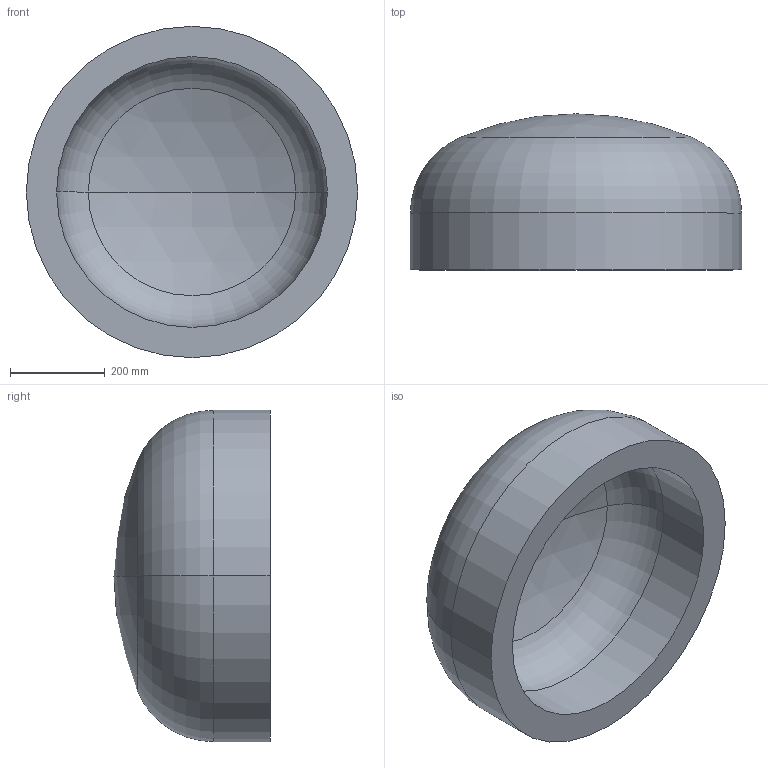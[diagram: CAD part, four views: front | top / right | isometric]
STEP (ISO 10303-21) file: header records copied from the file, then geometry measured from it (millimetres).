
FILE_DESCRIPTION (( 'STEP AP203' ), '1' );
FILE_NAME ('DIN 28013 Korbbogenform_-_Boden DIN 28013 - 700 x 120 - I - s=64.step', '2016-07-01T08:09:43', ( '' ), ( '' ), 'SwSTEP 2.0', 'SolidWorks 2013', '' );
FILE_SCHEMA (( 'CONFIG_CONTROL_DESIGN' ));
Length unit declared in the file: millimetre
Products named in the file (1): DIN 28013 Korbbogenform_-_Boden DIN 28013 - 700 x 120 - I - s=64
Bounding box: 700 x 329.85 x 700 mm (x, y, z)
Volume: 45918708.8 mm3; surface area: 1571413.5 mm2
Topology: 1 solids, 1 shells, 13 faces, 24 edges, 14 vertices
Faces by surface type: torus 4, cylinder 4, sphere 4, plane 1
Entity records: 407 total; most frequent: DIRECTION 72, CARTESIAN_POINT 52, ORIENTED_EDGE 48, AXIS2_PLACEMENT_3D 34, EDGE_CURVE 24, CIRCLE 20, VERTEX_POINT 14, EDGE_LOOP 14
